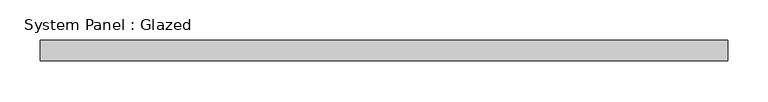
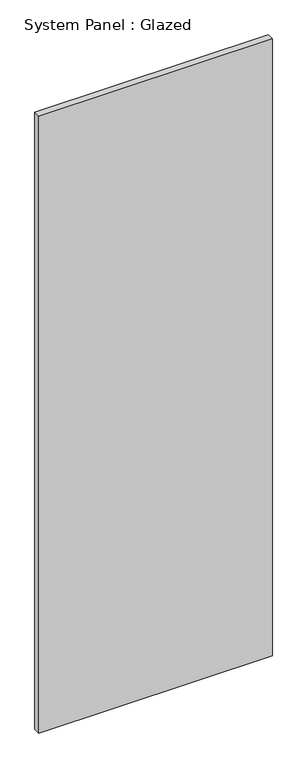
"""IFC4 building model written with IfcOpenShell, lengths in millimetres: plate geometry, System Panel : Glazed."""

from ifc_helpers import new_model, si_unit, origin, origin_with_axes, place, context, project, spatial, polyline, outline, extrude, source, transform, mapped, element, save


def system_panel_glazed_00e77426(model_context):
    return source(origin(), model_context, "Body", "SweptSolid", [
        extrude(outline(polyline([(425.45, 19.05), (-425.45, 19.05), (-425.45, 44.45), (425.45, 44.45), (425.45, 19.05)])), origin_with_axes(), (0.0, 0.0, 1.0), 2374.9),
    ])


if __name__ == "__main__":
    model = new_model("IFC4")
    model_context = context("Model", 3, world=origin())
    ifc_project = project(units=[si_unit("LENGTHUNIT", "METRE", prefix="MILLI")], contexts=[model_context])
    site = spatial("IfcSite", under=ifc_project)
    building = spatial("IfcBuilding", under=site)
    placement = place(None, origin())
    system_panel_glazed_shape = system_panel_glazed_00e77426(model_context)
    element("IfcPlate", 1, ObjectType="System Panel : Glazed", at=placement, inside=building, context=model_context, shape_type="MappedRepresentation", body=[
        mapped(system_panel_glazed_shape, transform((0.0, 0.0, 0.0), x_axis=(1.0, 0.0, 0.0), y_axis=(0.0, 1.0, 0.0), z_axis=(0.0, 0.0, 1.0))),
    ])
    save(model, "model.ifc")
